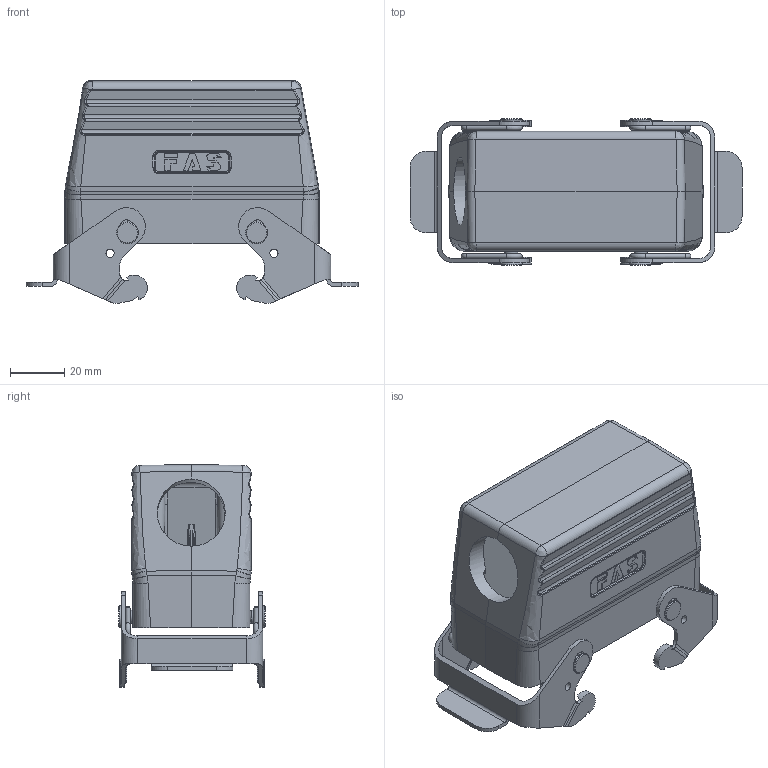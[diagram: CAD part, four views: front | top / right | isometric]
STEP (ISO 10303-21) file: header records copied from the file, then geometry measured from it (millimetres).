
FILE_DESCRIPTION (( 'STEP AP203' ), '1' );
FILE_NAME ('H16B-TSB-M25.STEP', '2023-06-07T08:50:27', ( '' ), ( '' ), 'SwSTEP 2.0', 'SolidWorks 2016', '' );
FILE_SCHEMA (( 'CONFIG_CONTROL_DESIGN' ));
Length unit declared in the file: millimetre
Products named in the file (1): H16B-TSB-M25
Bounding box: 122.1 x 54 x 81.99 mm (x, y, z)
Volume: 80202.5 mm3; surface area: 46823.1 mm2
Topology: 1 solids, 1 shells, 721 faces, 1906 edges, 1204 vertices
Faces by surface type: plane 274, cylinder 241, bspline 130, torus 44, cone 28, sphere 4
Full cylindrical faces by diameter (mm): 1.8 x4, 2.95 x4, 3 x8, 4 x4, 4.8 x4, 8 x4, 25 x1
Entity records: 30741 total; most frequent: CARTESIAN_POINT 14774, ORIENTED_EDGE 3562, DIRECTION 2854, EDGE_CURVE 1781, VERTEX_POINT 1154, AXIS2_PLACEMENT_3D 1021, EDGE_LOOP 851, VECTOR 812
